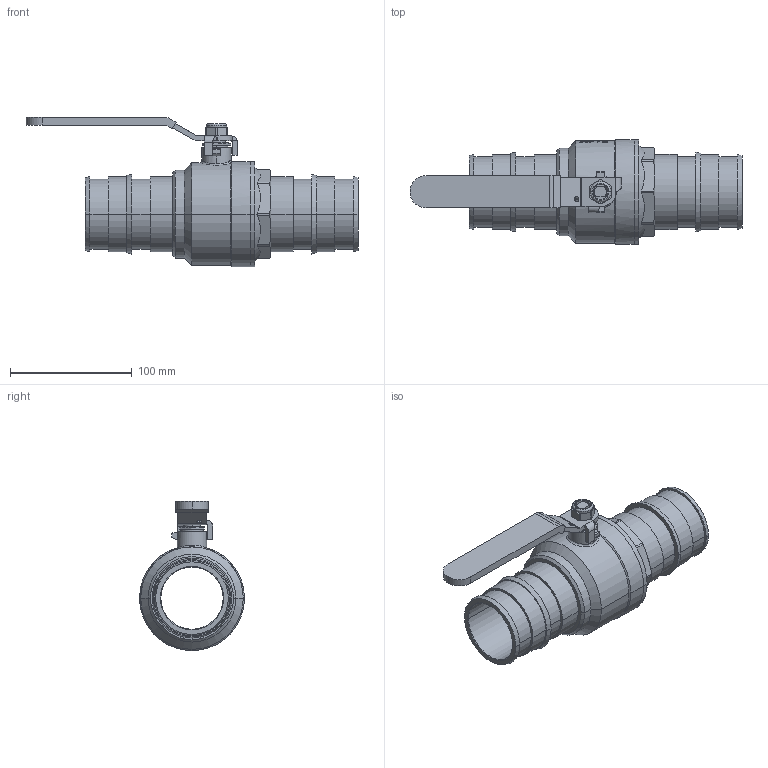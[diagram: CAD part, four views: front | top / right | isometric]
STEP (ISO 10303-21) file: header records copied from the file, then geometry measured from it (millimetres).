
FILE_DESCRIPTION(('Open CASCADE Model'),'2;1');
FILE_NAME('Open CASCADE Shape Model','2021-12-30T09:22:01',('Author'),( 'Open CASCADE'),'Open CASCADE STEP processor 7.3','Open CASCADE 7.3' ,'Unknown');
FILE_SCHEMA(('AUTOMOTIVE_DESIGN { 1 0 10303 214 1 1 1 1 }'));
Length unit declared in the file: millimetre
Products named in the file (12): Open CASCADE STEP translator 7.3 1; Open CASCADE STEP translator 7.3 1.1; Open CASCADE STEP translator 7.3 1.2; Open CASCADE STEP translator 7.3 1.3; Open CASCADE STEP translator 7.3 1.4; Open CASCADE STEP translator 7.3 1.5; Open CASCADE STEP translator 7.3 1.6; Open CASCADE STEP translator 7.3 1.7; Open CASCADE STEP translator 7.3 1.8; Open CASCADE STEP translator 7.3 1.9; Open CASCADE STEP translator 7.3 1.10; Open CASCADE STEP translator 7.3 1.11
Assembly tree (11 placements, depth 2):
  Open CASCADE STEP translator 7.3 1
    Open CASCADE STEP translator 7.3 1.1
    Open CASCADE STEP translator 7.3 1.2
    Open CASCADE STEP translator 7.3 1.3
    Open CASCADE STEP translator 7.3 1.4
    Open CASCADE STEP translator 7.3 1.5
    Open CASCADE STEP translator 7.3 1.6
    Open CASCADE STEP translator 7.3 1.7
    Open CASCADE STEP translator 7.3 1.8
    Open CASCADE STEP translator 7.3 1.9
    Open CASCADE STEP translator 7.3 1.10
    Open CASCADE STEP translator 7.3 1.11
Bounding box: 272.2 x 86 x 122.3 mm (x, y, z)
Volume: 317829.9 mm3; surface area: 178273.5 mm2
Topology: 11 solids, 12 shells, 610 faces, 1553 edges, 1002 vertices
Faces by surface type: cylinder 197, plane 168, bspline 129, cone 78, torus 28, sphere 8, revolution 2
Entity records: 111325 total; most frequent: CARTESIAN_POINT 83662, DIRECTION 4132, ORIENTED_EDGE 3098, PCURVE 3098, DEFINITIONAL_REPRESENTATION 3098, LINE 2093, VECTOR 2093, B_SPLINE_CURVE_WITH_KNOTS 1607
